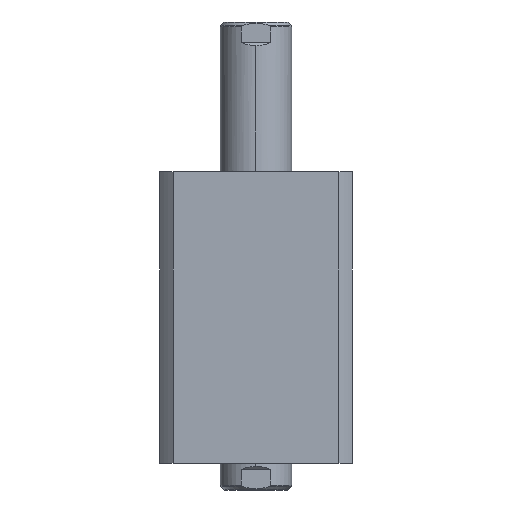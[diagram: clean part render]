
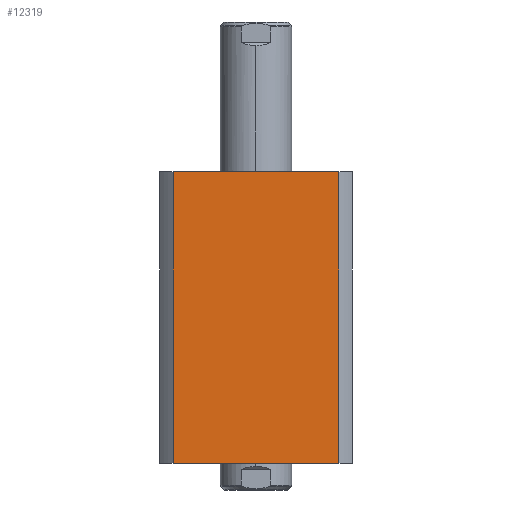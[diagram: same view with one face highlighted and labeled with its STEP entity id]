
A CAD part, left-side view. The second image highlights one B-rep face of the part: STEP entity #12319.
In plain terms, the highlighted planar face has unit normal (-1, 0, 0).
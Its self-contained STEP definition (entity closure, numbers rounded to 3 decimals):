
#256 = EDGE_CURVE ( 'NONE', #16043, #1589, #13964, .T. ) ;
#800 = CARTESIAN_POINT ( 'NONE',  ( -47., 47., 142. ) ) ;
#820 = VECTOR ( 'NONE', #7048, 1000. ) ;
#974 = CARTESIAN_POINT ( 'NONE',  ( -47., 40.435, 0. ) ) ;
#1589 = VERTEX_POINT ( 'NONE', #17491 ) ;
#1709 = ORIENTED_EDGE ( 'NONE', *, *, #11853, .F. ) ;
#1951 = ORIENTED_EDGE ( 'NONE', *, *, #18190, .T. ) ;
#1997 = LINE ( 'NONE', #17107, #5355 ) ;
#3024 = CARTESIAN_POINT ( 'NONE',  ( -47., 40.435, 300. ) ) ;
#4037 = CARTESIAN_POINT ( 'NONE',  ( -47., -40.435, 300. ) ) ;
#5080 = DIRECTION ( 'NONE',  ( 1., 0., 0. ) ) ;
#5355 = VECTOR ( 'NONE', #12864, 1000. ) ;
#5611 = CARTESIAN_POINT ( 'NONE',  ( -47., 47., 0. ) ) ;
#7009 = DIRECTION ( 'NONE',  ( 0., 0., -1. ) ) ;
#7048 = DIRECTION ( 'NONE',  ( 0., -1., 0. ) ) ;
#7745 = ORIENTED_EDGE ( 'NONE', *, *, #9355, .F. ) ;
#8684 = DIRECTION ( 'NONE',  ( 0., 0., 1. ) ) ;
#9136 = PLANE ( 'NONE',  #15509 ) ;
#9355 = EDGE_CURVE ( 'NONE', #15273, #16043, #1997, .T. ) ;
#9450 = CARTESIAN_POINT ( 'NONE',  ( -47., -40.435, 142. ) ) ;
#9688 = LINE ( 'NONE', #3024, #12991 ) ;
#10143 = VECTOR ( 'NONE', #7009, 1000. ) ;
#10192 = ORIENTED_EDGE ( 'NONE', *, *, #256, .F. ) ;
#11853 = EDGE_CURVE ( 'NONE', #13510, #15273, #9688, .T. ) ;
#12319 = ADVANCED_FACE ( 'NONE', ( #14139 ), #9136, .F. ) ;
#12864 = DIRECTION ( 'NONE',  ( 0., -1., 0. ) ) ;
#12991 = VECTOR ( 'NONE', #8684, 1000. ) ;
#13080 = CARTESIAN_POINT ( 'NONE',  ( -47., 40.435, 142. ) ) ;
#13510 = VERTEX_POINT ( 'NONE', #974 ) ;
#13964 = LINE ( 'NONE', #4037, #10143 ) ;
#14139 = FACE_OUTER_BOUND ( 'NONE', #17375, .T. ) ;
#15273 = VERTEX_POINT ( 'NONE', #13080 ) ;
#15325 = DIRECTION ( 'NONE',  ( 0., 1., 0. ) ) ;
#15509 = AXIS2_PLACEMENT_3D ( 'NONE', #800, #5080, #15325 ) ;
#16043 = VERTEX_POINT ( 'NONE', #9450 ) ;
#17107 = CARTESIAN_POINT ( 'NONE',  ( -47., 47., 142. ) ) ;
#17375 = EDGE_LOOP ( 'NONE', ( #10192, #7745, #1709, #1951 ) ) ;
#17491 = CARTESIAN_POINT ( 'NONE',  ( -47., -40.435, 0. ) ) ;
#18190 = EDGE_CURVE ( 'NONE', #13510, #1589, #18434, .T. ) ;
#18434 = LINE ( 'NONE', #5611, #820 ) ;
